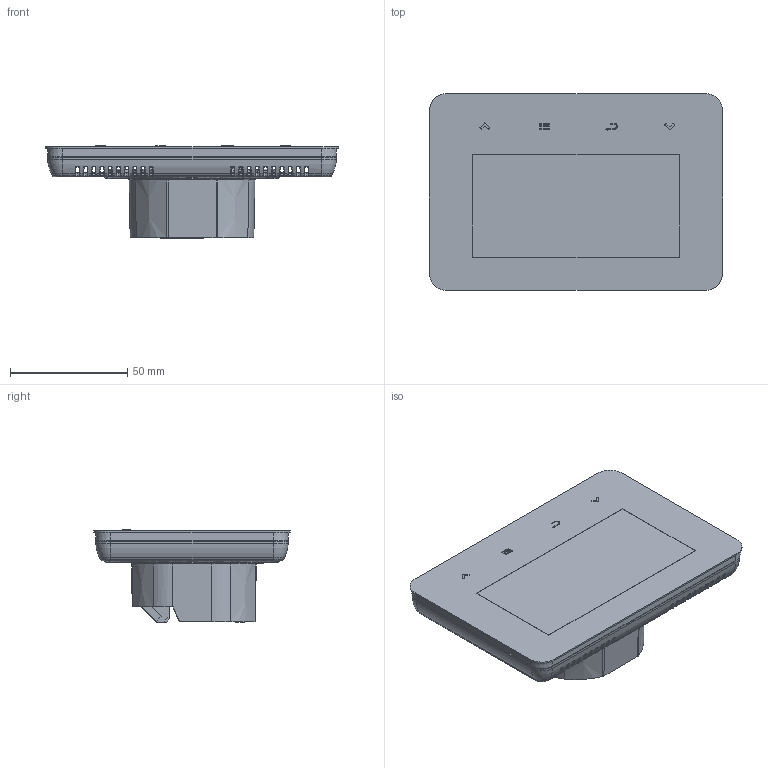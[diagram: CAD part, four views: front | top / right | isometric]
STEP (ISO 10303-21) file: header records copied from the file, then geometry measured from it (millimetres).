
FILE_DESCRIPTION (( 'STEP AP214' ), '1' );
FILE_NAME ('RT05_x_0_3D_AFRISO.STEP', '2022-12-16T08:54:02', ( '' ), ( '' ), 'SwSTEP 2.0', 'SolidWorks 2022', '' );
FILE_SCHEMA (( 'AUTOMOTIVE_DESIGN' ));
Length unit declared in the file: millimetre
Products named in the file (10): ISO 7049 - C-H ST 2.2 x 6.5 - C - H; pictoramy; oslona2_SPOD; _X2_01420105_X0_czka 5.08; listwa raster 5 45 stopni; zawieszka na baterie AA; szk_X2_0142_X0_o wystaj_X2_0105_X0_ce-293+1MM; ZA_X2_015A_X0_LEPKA PUSZKA_1; oslona gora szk_X2_0142_X0_o wystaj_X2_0105_X0_ce; RT05_x_0_3D_AFRISO
Assembly tree (18 placements, depth 2):
  RT05_x_0_3D_AFRISO
    oslona2_SPOD
    ISO 7049 - C-H ST 2.2 x 6.5 - C - H  x7
    zawieszka na baterie AA
    ZA_X2_015A_X0_LEPKA PUSZKA_1
    _X2_01420105_X0_czka 5.08  x2
    listwa raster 5 45 stopni  x3
    pictoramy
    oslona gora szk_X2_0142_X0_o wystaj_X2_0105_X0_ce
    szk_X2_0142_X0_o wystaj_X2_0105_X0_ce-293+1MM
Bounding box: 125.12 x 83.94 x 39.35 mm (x, y, z)
Volume: 22782.1 mm3; surface area: 85995.8 mm2
Topology: 24 solids, 26 shells, 3913 faces, 10357 edges, 6585 vertices
Faces by surface type: plane 1477, bspline 1330, cylinder 636, cone 438, torus 32
Entity records: 180441 total; most frequent: CARTESIAN_POINT 60806, ORIENTED_EDGE 19202, DIRECTION 11724, EDGE_CURVE 9609, VERTEX_POINT 6107, LINE 4832, VECTOR 4832, EDGE_LOOP 3898
